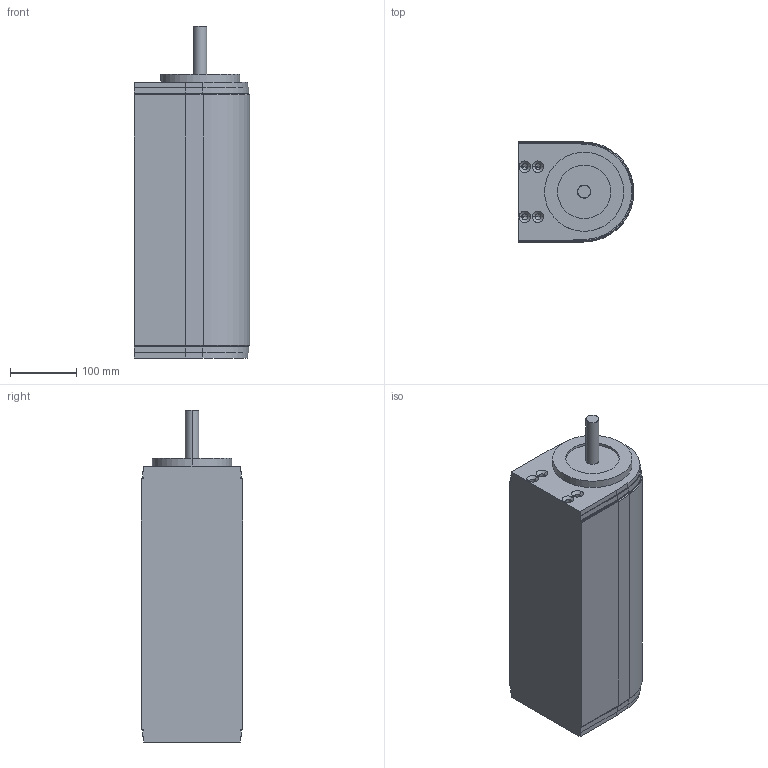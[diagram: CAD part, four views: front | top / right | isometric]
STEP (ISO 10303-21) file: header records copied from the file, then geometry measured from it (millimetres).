
FILE_DESCRIPTION (( 'STEP AP214' ), '1' );
FILE_NAME ('F2 1500 MDD20 GP.step', '2017-04-05T06:48:00', ( '' ), ( '' ), 'SwSTEP 2.0', 'SolidWorks 2015', '' );
FILE_SCHEMA (( 'AUTOMOTIVE_DESIGN' ));
Length unit declared in the file: millimetre
Products named in the file (1): F2 1500 MDD20 GP
Bounding box: 175.3 x 153.4 x 503 mm (x, y, z)
Volume: 10214085.5 mm3; surface area: 307846.3 mm2
Topology: 1 solids, 1 shells, 113 faces, 282 edges, 166 vertices
Faces by surface type: plane 40, cylinder 37, cone 34, torus 2
Entity records: 3963 total; most frequent: DIRECTION 576, CARTESIAN_POINT 558, ORIENTED_EDGE 532, EDGE_CURVE 266, AXIS2_PLACEMENT_3D 200, VECTOR 176, LINE 176, VERTEX_POINT 166
